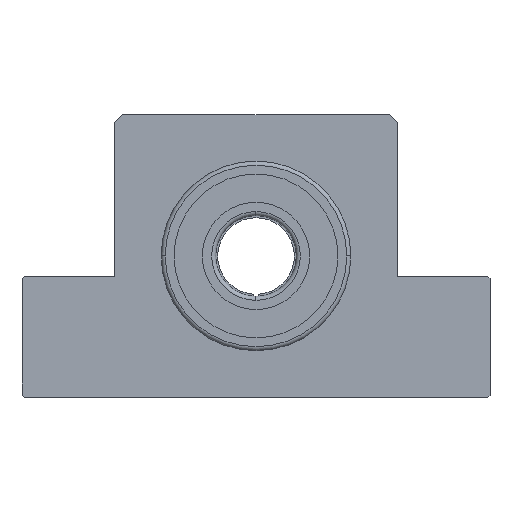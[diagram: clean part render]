
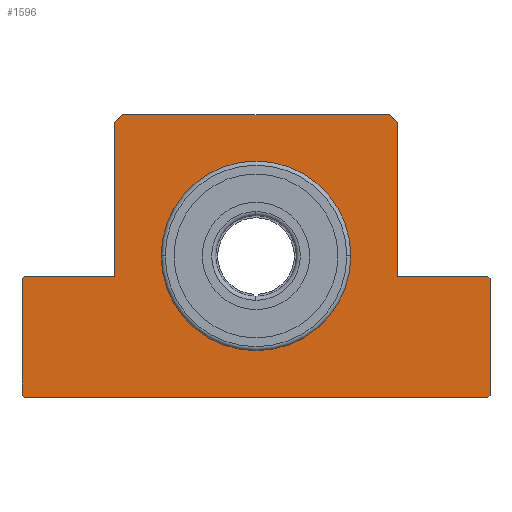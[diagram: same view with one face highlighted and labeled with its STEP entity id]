
A CAD part, top view. The second image highlights one B-rep face of the part: STEP entity #1596.
In plain terms, the highlighted planar face has unit normal (0, 0, 1).
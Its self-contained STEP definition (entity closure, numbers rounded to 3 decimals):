
#5 = DIRECTION ( 'NONE',  ( 0.707, 0.707, 0. ) ) ;
#63 = EDGE_CURVE ( 'NONE', #2570, #2065, #1773, .T. ) ;
#65 = AXIS2_PLACEMENT_3D ( 'NONE', #2751, #791, #207 ) ;
#112 = EDGE_CURVE ( 'NONE', #1922, #2570, #2030, .T. ) ;
#159 = ORIENTED_EDGE ( 'NONE', *, *, #2272, .T. ) ;
#200 = DIRECTION ( 'NONE',  ( 0., 1., 0. ) ) ;
#207 = DIRECTION ( 'NONE',  ( 1., 0., 0. ) ) ;
#220 = VECTOR ( 'NONE', #1308, 1000. ) ;
#269 = CARTESIAN_POINT ( 'NONE',  ( -58., -34.5, 26. ) ) ;
#296 = LINE ( 'NONE', #2840, #552 ) ;
#311 = CARTESIAN_POINT ( 'NONE',  ( 33., 35., 26. ) ) ;
#365 = EDGE_CURVE ( 'NONE', #2175, #1260, #2170, .T. ) ;
#387 = ORIENTED_EDGE ( 'NONE', *, *, #1936, .T. ) ;
#388 = ORIENTED_EDGE ( 'NONE', *, *, #1149, .T. ) ;
#414 = VERTEX_POINT ( 'NONE', #3259 ) ;
#445 = EDGE_CURVE ( 'NONE', #414, #2768, #955, .T. ) ;
#450 = VERTEX_POINT ( 'NONE', #1251 ) ;
#453 = VECTOR ( 'NONE', #5, 1000. ) ;
#510 = VECTOR ( 'NONE', #658, 1000. ) ;
#528 = FACE_OUTER_BOUND ( 'NONE', #2919, .T. ) ;
#552 = VECTOR ( 'NONE', #1083, 1000. ) ;
#632 = EDGE_CURVE ( 'NONE', #3258, #1922, #2323, .T. ) ;
#634 = LINE ( 'NONE', #647, #660 ) ;
#646 = CIRCLE ( 'NONE', #65, 23.5 ) ;
#647 = CARTESIAN_POINT ( 'NONE',  ( -33., 35., 26. ) ) ;
#658 = DIRECTION ( 'NONE',  ( -0.707, -0.707, 0. ) ) ;
#660 = VECTOR ( 'NONE', #3178, 1000. ) ;
#698 = ORIENTED_EDGE ( 'NONE', *, *, #3269, .T. ) ;
#721 = DIRECTION ( 'NONE',  ( 1., 0., 0. ) ) ;
#791 = DIRECTION ( 'NONE',  ( 0., 0., 1. ) ) ;
#806 = DIRECTION ( 'NONE',  ( -1., 0., 0. ) ) ;
#836 = VECTOR ( 'NONE', #1893, 1000. ) ;
#932 = VECTOR ( 'NONE', #3088, 1000. ) ;
#940 = CARTESIAN_POINT ( 'NONE',  ( -57.5, -5., 26. ) ) ;
#955 = LINE ( 'NONE', #1001, #2068 ) ;
#1001 = CARTESIAN_POINT ( 'NONE',  ( -58., -5.5, 26. ) ) ;
#1020 = LINE ( 'NONE', #2237, #2095 ) ;
#1083 = DIRECTION ( 'NONE',  ( -0.707, 0.707, 0. ) ) ;
#1121 = CARTESIAN_POINT ( 'NONE',  ( -35., -5., 26. ) ) ;
#1149 = EDGE_CURVE ( 'NONE', #1751, #2993, #2212, .T. ) ;
#1164 = LINE ( 'NONE', #2959, #510 ) ;
#1176 = LINE ( 'NONE', #1934, #1713 ) ;
#1188 = CARTESIAN_POINT ( 'NONE',  ( 58., -34.5, 26. ) ) ;
#1218 = VERTEX_POINT ( 'NONE', #1924 ) ;
#1220 = CARTESIAN_POINT ( 'NONE',  ( -35., 33., 26. ) ) ;
#1251 = CARTESIAN_POINT ( 'NONE',  ( 33., 35., 26. ) ) ;
#1260 = VERTEX_POINT ( 'NONE', #3134 ) ;
#1278 = VERTEX_POINT ( 'NONE', #3076 ) ;
#1308 = DIRECTION ( 'NONE',  ( 0., -1., 0. ) ) ;
#1318 = CARTESIAN_POINT ( 'NONE',  ( 57.5, -35., 26. ) ) ;
#1354 = VERTEX_POINT ( 'NONE', #2787 ) ;
#1359 = ORIENTED_EDGE ( 'NONE', *, *, #445, .T. ) ;
#1362 = CARTESIAN_POINT ( 'NONE',  ( 57.5, -35., 26. ) ) ;
#1433 = VECTOR ( 'NONE', #1877, 1000. ) ;
#1527 = CARTESIAN_POINT ( 'NONE',  ( -23.5, 0., 26. ) ) ;
#1592 = LINE ( 'NONE', #311, #836 ) ;
#1596 = ADVANCED_FACE ( 'NONE', ( #528, #2317 ), #1760, .F. ) ;
#1635 = ORIENTED_EDGE ( 'NONE', *, *, #3117, .T. ) ;
#1638 = VECTOR ( 'NONE', #200, 1000. ) ;
#1713 = VECTOR ( 'NONE', #2958, 1000. ) ;
#1726 = DIRECTION ( 'NONE',  ( 0., -1., 0. ) ) ;
#1751 = VERTEX_POINT ( 'NONE', #1121 ) ;
#1760 = PLANE ( 'NONE',  #2155 ) ;
#1773 = LINE ( 'NONE', #2518, #1638 ) ;
#1793 = CARTESIAN_POINT ( 'NONE',  ( -35., -5., 26. ) ) ;
#1813 = ORIENTED_EDGE ( 'NONE', *, *, #2085, .T. ) ;
#1828 = ORIENTED_EDGE ( 'NONE', *, *, #1899, .T. ) ;
#1877 = DIRECTION ( 'NONE',  ( 1., 0., 0. ) ) ;
#1893 = DIRECTION ( 'NONE',  ( -1., 0., 0. ) ) ;
#1899 = EDGE_CURVE ( 'NONE', #2065, #2774, #296, .T. ) ;
#1920 = VECTOR ( 'NONE', #3058, 1000. ) ;
#1922 = VERTEX_POINT ( 'NONE', #1362 ) ;
#1924 = CARTESIAN_POINT ( 'NONE',  ( 35., 33., 26. ) ) ;
#1934 = CARTESIAN_POINT ( 'NONE',  ( 35., 33., 26. ) ) ;
#1936 = EDGE_CURVE ( 'NONE', #450, #1278, #1592, .T. ) ;
#1947 = DIRECTION ( 'NONE',  ( 0., 0., 1. ) ) ;
#1985 = CARTESIAN_POINT ( 'NONE',  ( 0., 0., 26. ) ) ;
#2030 = LINE ( 'NONE', #1318, #453 ) ;
#2034 = LINE ( 'NONE', #3095, #1920 ) ;
#2065 = VERTEX_POINT ( 'NONE', #3183 ) ;
#2068 = VECTOR ( 'NONE', #1726, 1000. ) ;
#2079 = ORIENTED_EDGE ( 'NONE', *, *, #2186, .T. ) ;
#2085 = EDGE_CURVE ( 'NONE', #1218, #450, #1176, .T. ) ;
#2095 = VECTOR ( 'NONE', #3239, 1000. ) ;
#2155 = AXIS2_PLACEMENT_3D ( 'NONE', #3000, #2544, #806 ) ;
#2168 = ORIENTED_EDGE ( 'NONE', *, *, #632, .T. ) ;
#2170 = CIRCLE ( 'NONE', #3276, 23.5 ) ;
#2175 = VERTEX_POINT ( 'NONE', #1527 ) ;
#2186 = EDGE_CURVE ( 'NONE', #2768, #3258, #3064, .T. ) ;
#2212 = LINE ( 'NONE', #1793, #932 ) ;
#2237 = CARTESIAN_POINT ( 'NONE',  ( 35., -5., 26. ) ) ;
#2272 = EDGE_CURVE ( 'NONE', #2774, #1354, #2034, .T. ) ;
#2285 = ORIENTED_EDGE ( 'NONE', *, *, #2386, .F. ) ;
#2290 = CARTESIAN_POINT ( 'NONE',  ( -58., -34.5, 26. ) ) ;
#2317 = FACE_BOUND ( 'NONE', #3246, .T. ) ;
#2323 = LINE ( 'NONE', #2841, #1433 ) ;
#2329 = ORIENTED_EDGE ( 'NONE', *, *, #365, .F. ) ;
#2369 = ORIENTED_EDGE ( 'NONE', *, *, #63, .T. ) ;
#2386 = EDGE_CURVE ( 'NONE', #1260, #2175, #646, .T. ) ;
#2415 = CARTESIAN_POINT ( 'NONE',  ( -57.5, -35., 26. ) ) ;
#2518 = CARTESIAN_POINT ( 'NONE',  ( 58., -34.5, 26. ) ) ;
#2521 = EDGE_CURVE ( 'NONE', #2726, #1751, #2758, .T. ) ;
#2544 = DIRECTION ( 'NONE',  ( 0., 0., -1. ) ) ;
#2558 = CARTESIAN_POINT ( 'NONE',  ( 57.5, -5., 26. ) ) ;
#2570 = VERTEX_POINT ( 'NONE', #1188 ) ;
#2574 = VECTOR ( 'NONE', #2817, 1000. ) ;
#2591 = ORIENTED_EDGE ( 'NONE', *, *, #112, .T. ) ;
#2726 = VERTEX_POINT ( 'NONE', #1220 ) ;
#2751 = CARTESIAN_POINT ( 'NONE',  ( 0., 0., 26. ) ) ;
#2758 = LINE ( 'NONE', #2819, #220 ) ;
#2768 = VERTEX_POINT ( 'NONE', #2290 ) ;
#2774 = VERTEX_POINT ( 'NONE', #2558 ) ;
#2787 = CARTESIAN_POINT ( 'NONE',  ( 35., -5., 26. ) ) ;
#2817 = DIRECTION ( 'NONE',  ( 0.707, -0.707, 0. ) ) ;
#2819 = CARTESIAN_POINT ( 'NONE',  ( -35., 33., 26. ) ) ;
#2822 = ORIENTED_EDGE ( 'NONE', *, *, #3014, .T. ) ;
#2840 = CARTESIAN_POINT ( 'NONE',  ( 58., -5.5, 26. ) ) ;
#2841 = CARTESIAN_POINT ( 'NONE',  ( -57.5, -35., 26. ) ) ;
#2919 = EDGE_LOOP ( 'NONE', ( #3018, #388, #698, #1359, #2079, #2168, #2591, #2369, #1828, #159, #2822, #1813, #387, #1635 ) ) ;
#2958 = DIRECTION ( 'NONE',  ( -0.707, 0.707, 0. ) ) ;
#2959 = CARTESIAN_POINT ( 'NONE',  ( -57.5, -5., 26. ) ) ;
#2993 = VERTEX_POINT ( 'NONE', #940 ) ;
#3000 = CARTESIAN_POINT ( 'NONE',  ( 0., 0., 26. ) ) ;
#3014 = EDGE_CURVE ( 'NONE', #1354, #1218, #1020, .T. ) ;
#3018 = ORIENTED_EDGE ( 'NONE', *, *, #2521, .T. ) ;
#3058 = DIRECTION ( 'NONE',  ( -1., 0., 0. ) ) ;
#3064 = LINE ( 'NONE', #269, #2574 ) ;
#3076 = CARTESIAN_POINT ( 'NONE',  ( -33., 35., 26. ) ) ;
#3088 = DIRECTION ( 'NONE',  ( -1., 0., 0. ) ) ;
#3095 = CARTESIAN_POINT ( 'NONE',  ( 57.5, -5., 26. ) ) ;
#3117 = EDGE_CURVE ( 'NONE', #1278, #2726, #634, .T. ) ;
#3134 = CARTESIAN_POINT ( 'NONE',  ( 23.5, 0., 26. ) ) ;
#3178 = DIRECTION ( 'NONE',  ( -0.707, -0.707, 0. ) ) ;
#3183 = CARTESIAN_POINT ( 'NONE',  ( 58., -5.5, 26. ) ) ;
#3239 = DIRECTION ( 'NONE',  ( 0., 1., 0. ) ) ;
#3246 = EDGE_LOOP ( 'NONE', ( #2329, #2285 ) ) ;
#3258 = VERTEX_POINT ( 'NONE', #2415 ) ;
#3259 = CARTESIAN_POINT ( 'NONE',  ( -58., -5.5, 26. ) ) ;
#3269 = EDGE_CURVE ( 'NONE', #2993, #414, #1164, .T. ) ;
#3276 = AXIS2_PLACEMENT_3D ( 'NONE', #1985, #1947, #721 ) ;
